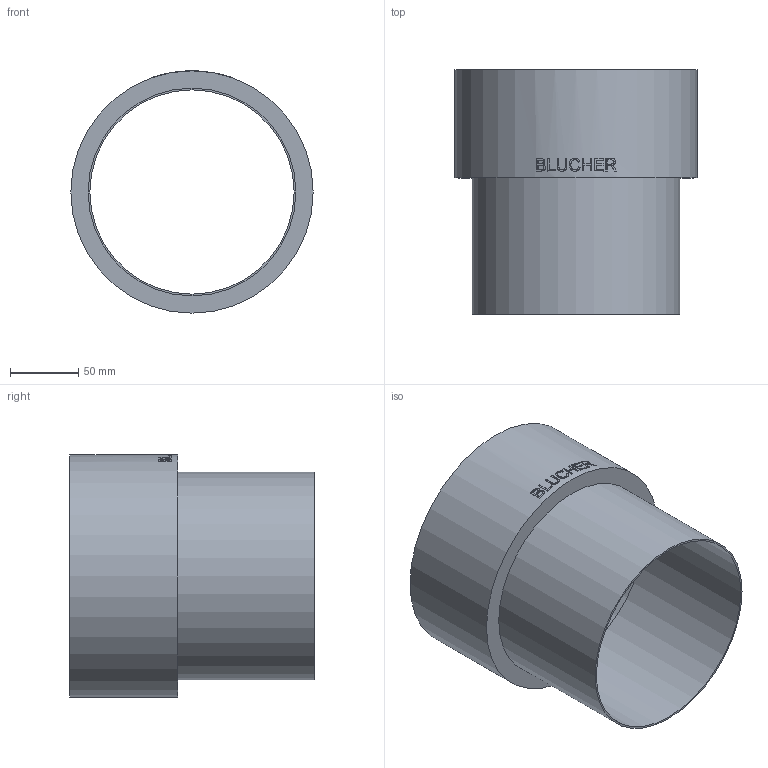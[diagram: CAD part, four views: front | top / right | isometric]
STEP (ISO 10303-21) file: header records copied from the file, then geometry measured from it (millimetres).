
FILE_DESCRIPTION((''),'2;1');
FILE_NAME('I:\WATTS\3D_CAD\3D_CAD_Models\Blucher_Drains\Fittings\Adapters\WebsiteFiles\3D\STEP\CIA-6-316.stp','2009-12-30T13:49:55',('menesek'),(''),'Autodesk Inventor 2010','Autodesk Inventor 2010','');
FILE_SCHEMA(('AUTOMOTIVE_DESIGN { 1 0 10303 214 1 1 1 1 }'));
Length unit declared in the file: inch
Products named in the file (1): CIA-6-316
Bounding box: 177.8 x 179.39 x 177.8 mm (x, y, z)
Volume: 124401.2 mm3; surface area: 197373.4 mm2
Topology: 1 solids, 1 shells, 106 faces, 276 edges, 184 vertices
Faces by surface type: plane 58, bspline 34, cylinder 14
Full cylindrical faces by diameter (mm): 149.86 x1, 152.4 x1, 175.26 x1, 177.8 x1
Entity records: 14028 total; most frequent: CARTESIAN_POINT 11684, ORIENTED_EDGE 544, DIRECTION 348, EDGE_CURVE 272, VERTEX_POINT 184, EDGE_LOOP 124, AXIS2_PLACEMENT_3D 116, VECTOR 116
